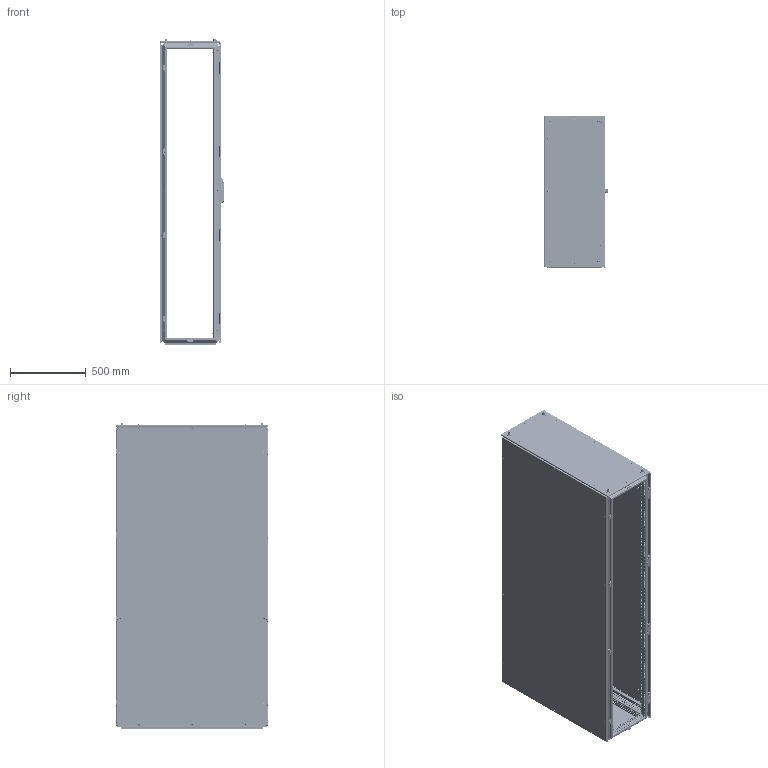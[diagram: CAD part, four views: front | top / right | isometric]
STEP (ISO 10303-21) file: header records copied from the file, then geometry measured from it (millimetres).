
FILE_DESCRIPTION(('STEP AP203'), '1');
FILE_NAME('ØÍÑ ÊÑ PRO II Êîðïóñ ÑÁ', '', ('UNSPECIFIED'), ('UNSPECIFIED'), 'C3D Converter', 'C3D Toolkit', '');
FILE_SCHEMA(('CONFIG_CONTROL_DESIGN'));
Length unit declared in the file: millimetre
Products named in the file (55): 3210.200.100.40; 3000; 3007.175; 3007.75; 3006; 3009.04; 3009.04.01; 3009.04.2; 3009.04.01.2; 3301; 3310; 3311; 3302; 3211; 3409; 3415; 3425; 3426; 3422.01; 3412; 3411; 2952; 3009.05; 3009.05.01; 3622.01; 3417; 3427; 3010
Assembly tree (367 placements, depth 6):
  3210.200.100.40
    3000
      3000
      (unnamed)  x88
      3007.175  x2
      (unnamed)  x14
      3007.75  x2
      3006
      3009.04  x8
        3009.04.01
        (unnamed)
        (unnamed)
      3009.04.2  x13
        3009.04.01.2
        (unnamed)
        (unnamed)
    3301
      3310
        3311
        (unnamed)
      (unnamed)  x8
      (unnamed)  x8
      (unnamed)  x4
      (unnamed)  x4
    3302
      3211
      (unnamed)  x2
      (unnamed)  x14
    3409
      3415
        3425
          3426
          3422.01  x4
          (unnamed)  x12
          (unnamed)  x8
          (unnamed)  x2
        3412  x2
        3411  x2
        (unnamed)  x4
        (unnamed)  x12
        (unnamed)  x20
        (unnamed)  x8
        2952
          (unnamed)
            (unnamed)
            (unnamed)
            (unnamed)
            (unnamed)
            (unnamed)
        (unnamed)  x2
        3009.05  x4
          3009.05.01
          (unnamed)
          (unnamed)
        3622.01  x4
        (unnamed)  x4
      3417
        3427
          3426
          3422.01  x4
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Bounding box: 423.93 x 997 x 2016.5 mm (x, y, z)
Volume: 13042469.2 mm3; surface area: 16563903.5 mm2
Topology: 466 solids, 466 shells, 26200 faces, 71656 edges, 46974 vertices
Faces by surface type: plane 17236, cylinder 6323, cone 1437, bspline 643, torus 434, extrusion 90, sphere 37
Full cylindrical faces by diameter (mm): 0.5 x32, 2.6 x8, 3.71 x8, 4.134 x130, 4.3 x2, 4.5 x2298, 4.8 x16, 4.917 x32, 5 x182, 5.2 x1, 5.5 x8, 5.8 x42, 6 x77, 6.1 x8, 6.4 x8, 6.6 x32, 6.75 x32, 6.8 x184, 7 x96, 7.3 x32, 7.5 x82, 8 x124, 8.3 x16, 8.5 x9, 9.2 x74, 10 x43, 10.106 x8, 10.5 x10, 11.5 x14, 12 x44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
Entity records: 670187 total; most frequent: CARTESIAN_POINT 263453, ORIENTED_EDGE 77458, DIRECTION 72165, EDGE_CURVE 38729, VECTOR 29717, LINE 29672, VERTEX_POINT 27049, EDGE_LOOP 25366
